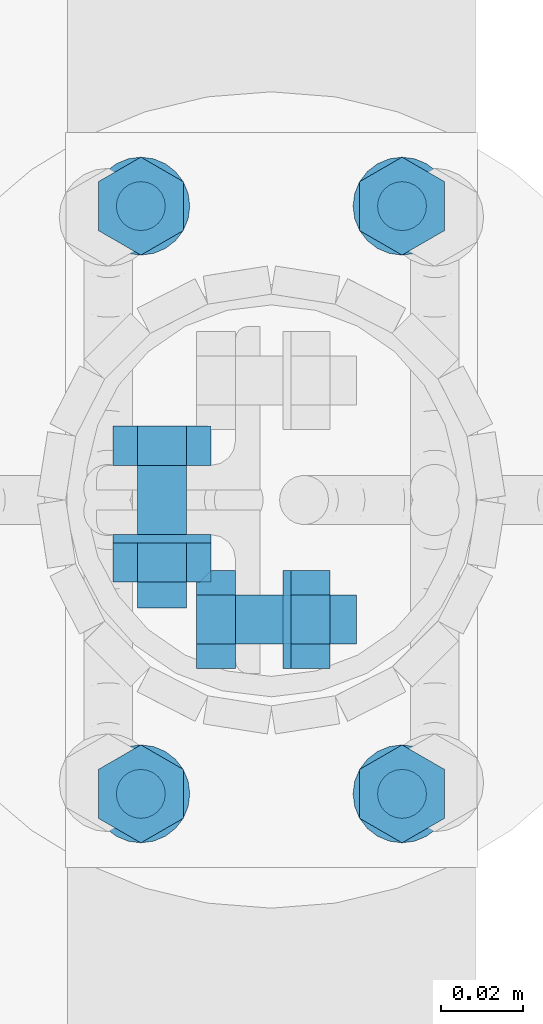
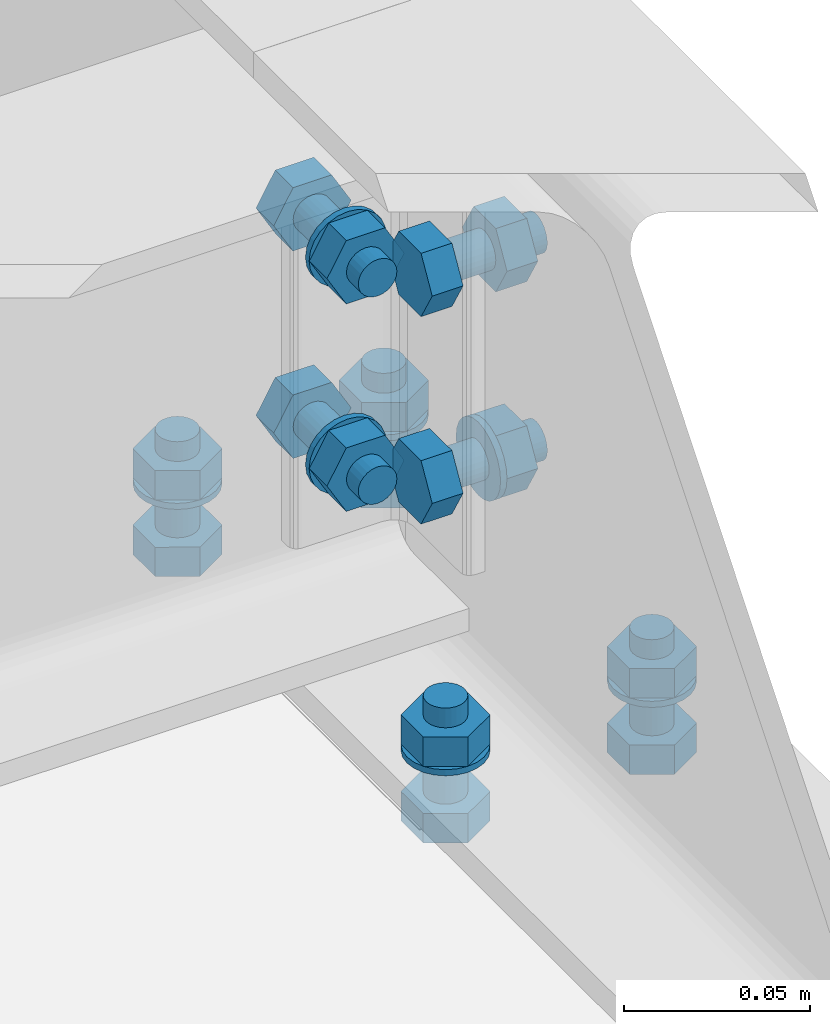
# One storey, part 30 of 84: 39 mechanical fasteners.
"""IFC4 building model written with IfcOpenShell, lengths in metres."""

from ifc_helpers import new_model, si_unit, frame, origin_with_axes, place, context, project, spatial, polyline, outline, extrude, type_object, element, save


model = new_model("IFC4")

# Units and contexts
model_context = context("Model", 3, precision=1e-05, world=origin_with_axes())
ifc_project = project(units=[si_unit("LENGTHUNIT", "METRE"), si_unit("AREAUNIT", "SQUARE_METRE"), si_unit("VOLUMEUNIT", "CUBIC_METRE"), si_unit("MASSUNIT", "GRAM", prefix="KILO"), si_unit("TIMEUNIT", "SECOND"), si_unit("PLANEANGLEUNIT", "RADIAN"), si_unit("SOLIDANGLEUNIT", "STERADIAN"), si_unit("THERMODYNAMICTEMPERATUREUNIT", "DEGREE_CELSIUS")], contexts=[model_context])

# Site, building, storey
placement_1 = place(None, origin_with_axes())
site = spatial("IfcSite", under=ifc_project, at=placement_1, Name="Italia", CompositionType="ELEMENT")
building = spatial("IfcBuilding", under=site, at=placement_1, Name="Tettoia", CompositionType="ELEMENT")
storey_placement = place(None, frame((0.0, 0.0, 4.199999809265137), z_axis=(0.0, 0.0, 1.0), x_axis=(1.0, 0.0, 0.0)))
storey = spatial("IfcBuildingStorey", under=building, at=storey_placement, Name="Storey 1", CompositionType="ELEMENT", Elevation=4.199999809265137)

# Mechanical fasteners
mechanical_fastener_type_1 = type_object("IfcMechanicalFastenerType", Name="Collegamento 0104_-004", PredefinedType="BOLT")
placement_2 = place(placement_1, origin_with_axes())
mechanical_fastener_1_placement = place(placement_2, origin_with_axes())
element("IfcMechanicalFastener", 1, at=mechanical_fastener_1_placement, inside=storey, type_object=mechanical_fastener_type_1, Name="Collegamento 0104_-004", NominalDiameter=0.0119999, context=model_context, shape_type="SweptSolid", body=[
    extrude(outline(polyline([(0.0, 0.0), (0.0120001, 0.0), (0.0180001, -0.0103931), (0.0120001, -0.0207853), (0.0, -0.0207853), (-0.00600004, -0.0103931), (0.0, 0.0)])), frame((11.3324, 4.716, 4.195), z_axis=(0.0, 0.0, -1.0), x_axis=(0.0, 1.0, 0.0)), (0.0, 0.0, 1.0), 0.00959969),
])
mechanical_fastener_type_2 = type_object("IfcMechanicalFastenerType", Name="Collegamento 0104_-004", PredefinedType="BOLT")
mechanical_fastener_2_placement = place(placement_2, origin_with_axes())
element("IfcMechanicalFastener", 2, at=mechanical_fastener_2_placement, inside=storey, type_object=mechanical_fastener_type_2, Name="Collegamento 0104_-004", NominalDiameter=0.012, context=model_context, shape_type="SweptSolid", body=[
    extrude(outline(polyline([(0.0, 0.0), (-0.000204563, -0.00155258), (-0.000803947, -0.00300026), (-0.00175762, -0.0042429), (-0.00300026, -0.00519657), (-0.00444698, -0.00579548), (-0.00600004, -0.00599957), (-0.0075531, -0.00579548), (-0.00899982, -0.00519657), (-0.0102425, -0.0042429), (-0.0111961, -0.00300026), (-0.0117955, -0.00155258), (-0.0120001, 0.0), (-0.0117955, 0.00155258), (-0.0111961, 0.00300026), (-0.0102425, 0.0042429), (-0.00899982, 0.00519657), (-0.0075531, 0.00579548), (-0.00600004, 0.00599957), (-0.00444698, 0.00579548), (-0.00300026, 0.00519657), (-0.00175762, 0.0042429), (-0.000803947, 0.00300026), (-0.000204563, 0.00155258), (0.0, 0.0)])), frame((11.322, 4.728, 4.2265), z_axis=(0.0, 0.0, -1.0), x_axis=(0.0, 1.0, 0.0)), (0.0, 0.0, 1.0), 0.0315003),
])
mechanical_fastener_type_3 = type_object("IfcMechanicalFastenerType", Name="Collegamento 0104_-004", PredefinedType="BOLT")
mechanical_fastener_3_placement = place(placement_2, origin_with_axes())
element("IfcMechanicalFastener", 3, at=mechanical_fastener_3_placement, inside=storey, type_object=mechanical_fastener_type_3, Name="Collegamento 0104_-004", NominalDiameter=0.0119999, context=model_context, shape_type="SweptSolid", body=[
    extrude(outline(polyline([(0.0, 0.0), (0.0120001, 0.0), (0.0180001, -0.0103931), (0.0120001, -0.0207853), (0.0, -0.0207853), (-0.00600004, -0.0103931), (0.0, 0.0)])), frame((11.3324, 4.716, 4.2201), z_axis=(0.0, 0.0, -1.0), x_axis=(0.0, 1.0, 0.0)), (0.0, 0.0, 1.0), 0.00960016),
])
mechanical_fastener_type_4 = type_object("IfcMechanicalFastenerType", Name="Collegamento 0104_-004", PredefinedType="BOLT")
mechanical_fastener_4_placement = place(placement_2, origin_with_axes())
element("IfcMechanicalFastener", 4, at=mechanical_fastener_4_placement, inside=storey, type_object=mechanical_fastener_type_4, Name="Collegamento 0104_-004", NominalDiameter=0.024, context=model_context, shape_type="SweptSolid", body=[
    extrude(outline(polyline([(0.0, 0.0), (-0.000409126, -0.00310612), (-0.00160789, -0.00599957), (-0.00351477, -0.00848484), (-0.00600004, -0.0103922), (-0.00889444, -0.011591), (-0.0120001, -0.0120001), (-0.0151057, -0.011591), (-0.0180001, -0.0103922), (-0.0204854, -0.00848484), (-0.0223923, -0.00599957), (-0.023591, -0.00310612), (-0.0240002, 0.0), (-0.023591, 0.00310612), (-0.0223923, 0.00599957), (-0.0204854, 0.00848484), (-0.0180001, 0.0103922), (-0.0151057, 0.011591), (-0.0120001, 0.0120001), (-0.00889444, 0.011591), (-0.00600004, 0.0103922), (-0.00351477, 0.00848484), (-0.00160789, 0.00599957), (-0.000409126, 0.00310612), (0.0, 0.0)])), frame((11.322, 4.734, 4.2105), z_axis=(0.0, 0.0, -1.0), x_axis=(0.0, 1.0, 0.0)), (0.0, 0.0, 1.0), 0.00199986),
])
mechanical_fastener_type_5 = type_object("IfcMechanicalFastenerType", Name="Collegamento 0104_-004", PredefinedType="BOLT")
mechanical_fastener_5_placement = place(placement_2, origin_with_axes())
element("IfcMechanicalFastener", 5, at=mechanical_fastener_5_placement, inside=storey, type_object=mechanical_fastener_type_5, Name="Collegamento 0104_-004", NominalDiameter=0.0119999, context=model_context, shape_type="SweptSolid", body=[
    extrude(outline(polyline([(0.0, 0.0), (0.0120001, 0.0), (0.0180001, -0.0103931), (0.0120001, -0.0207853), (0.0, -0.0207853), (-0.00600004, -0.0103931), (0.0, 0.0)])), frame((11.3324, 4.572, 4.195), z_axis=(0.0, 0.0, -1.0), x_axis=(0.0, 1.0, 0.0)), (0.0, 0.0, 1.0), 0.00959969),
])
mechanical_fastener_type_6 = type_object("IfcMechanicalFastenerType", Name="Collegamento 0104_-004", PredefinedType="BOLT")
mechanical_fastener_6_placement = place(placement_2, origin_with_axes())
element("IfcMechanicalFastener", 6, at=mechanical_fastener_6_placement, inside=storey, type_object=mechanical_fastener_type_6, Name="Collegamento 0104_-004", NominalDiameter=0.012, context=model_context, shape_type="SweptSolid", body=[
    extrude(outline(polyline([(0.0, 0.0), (-0.000204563, -0.00155258), (-0.000803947, -0.00300026), (-0.00175762, -0.0042429), (-0.00300026, -0.00519657), (-0.00444698, -0.00579548), (-0.00600004, -0.00599957), (-0.0075531, -0.00579548), (-0.00899982, -0.00519657), (-0.0102425, -0.0042429), (-0.0111961, -0.00300026), (-0.0117955, -0.00155258), (-0.0120001, 0.0), (-0.0117955, 0.00155258), (-0.0111961, 0.00300026), (-0.0102425, 0.0042429), (-0.00899982, 0.00519657), (-0.0075531, 0.00579548), (-0.00600004, 0.00599957), (-0.00444698, 0.00579548), (-0.00300026, 0.00519657), (-0.00175762, 0.0042429), (-0.000803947, 0.00300026), (-0.000204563, 0.00155258), (0.0, 0.0)])), frame((11.322, 4.584, 4.2265), z_axis=(0.0, 0.0, -1.0), x_axis=(0.0, 1.0, 0.0)), (0.0, 0.0, 1.0), 0.0315003),
])
mechanical_fastener_type_7 = type_object("IfcMechanicalFastenerType", Name="Collegamento 0104_-004", PredefinedType="BOLT")
mechanical_fastener_7_placement = place(placement_2, origin_with_axes())
element("IfcMechanicalFastener", 7, at=mechanical_fastener_7_placement, inside=storey, type_object=mechanical_fastener_type_7, Name="Collegamento 0104_-004", NominalDiameter=0.0119999, context=model_context, shape_type="SweptSolid", body=[
    extrude(outline(polyline([(0.0, 0.0), (0.0120001, 0.0), (0.0180001, -0.0103931), (0.0120001, -0.0207853), (0.0, -0.0207853), (-0.00600004, -0.0103931), (0.0, 0.0)])), frame((11.3324, 4.572, 4.2201), z_axis=(0.0, 0.0, -1.0), x_axis=(0.0, 1.0, 0.0)), (0.0, 0.0, 1.0), 0.00960016),
])
mechanical_fastener_type_8 = type_object("IfcMechanicalFastenerType", Name="Collegamento 0104_-004", PredefinedType="BOLT")
mechanical_fastener_8_placement = place(placement_2, origin_with_axes())
element("IfcMechanicalFastener", 8, at=mechanical_fastener_8_placement, inside=storey, type_object=mechanical_fastener_type_8, Name="Collegamento 0104_-004", NominalDiameter=0.024, context=model_context, shape_type="SweptSolid", body=[
    extrude(outline(polyline([(0.0, 0.0), (-0.000409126, -0.00310612), (-0.00160789, -0.00599957), (-0.00351477, -0.00848484), (-0.00600004, -0.0103922), (-0.00889444, -0.011591), (-0.0120001, -0.0120001), (-0.0151057, -0.011591), (-0.0180001, -0.0103922), (-0.0204854, -0.00848484), (-0.0223923, -0.00599957), (-0.023591, -0.00310612), (-0.0240002, 0.0), (-0.023591, 0.00310612), (-0.0223923, 0.00599957), (-0.0204854, 0.00848484), (-0.0180001, 0.0103922), (-0.0151057, 0.011591), (-0.0120001, 0.0120001), (-0.00889444, 0.011591), (-0.00600004, 0.0103922), (-0.00351477, 0.00848484), (-0.00160789, 0.00599957), (-0.000409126, 0.00310612), (0.0, 0.0)])), frame((11.322, 4.59, 4.2105), z_axis=(0.0, 0.0, -1.0), x_axis=(0.0, 1.0, 0.0)), (0.0, 0.0, 1.0), 0.00199986),
])
mechanical_fastener_type_9 = type_object("IfcMechanicalFastenerType", Name="Collegamento 0104_-004", PredefinedType="BOLT")
mechanical_fastener_9_placement = place(placement_2, origin_with_axes())
element("IfcMechanicalFastener", 9, at=mechanical_fastener_9_placement, inside=storey, type_object=mechanical_fastener_type_9, Name="Collegamento 0104_-004", NominalDiameter=0.0119999, context=model_context, shape_type="SweptSolid", body=[
    extrude(outline(polyline([(0.0, 0.0), (0.0120001, 0.0), (0.0180001, -0.0103922), (0.0120001, -0.0207853), (0.0, -0.0207853), (-0.00600004, -0.0103922), (0.0, 0.0)])), frame((11.2684, 4.716, 4.195), z_axis=(0.0, 0.0, -1.0), x_axis=(0.0, 1.0, 0.0)), (0.0, 0.0, 1.0), 0.00959969),
])
mechanical_fastener_type_10 = type_object("IfcMechanicalFastenerType", Name="Collegamento 0104_-004", PredefinedType="BOLT")
mechanical_fastener_10_placement = place(placement_2, origin_with_axes())
element("IfcMechanicalFastener", 10, at=mechanical_fastener_10_placement, inside=storey, type_object=mechanical_fastener_type_10, Name="Collegamento 0104_-004", NominalDiameter=0.012, context=model_context, shape_type="SweptSolid", body=[
    extrude(outline(polyline([(0.0, 0.0), (-0.000204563, -0.00155258), (-0.000803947, -0.00300026), (-0.00175762, -0.0042429), (-0.00300026, -0.00519657), (-0.00444698, -0.00579548), (-0.00600004, -0.00599957), (-0.0075531, -0.00579548), (-0.00899982, -0.00519657), (-0.0102425, -0.0042429), (-0.0111961, -0.00300026), (-0.0117955, -0.00155258), (-0.0120001, 0.0), (-0.0117955, 0.00155258), (-0.0111961, 0.00300026), (-0.0102425, 0.0042429), (-0.00899982, 0.00519657), (-0.0075531, 0.00579548), (-0.00600004, 0.00599957), (-0.00444698, 0.00579548), (-0.00300026, 0.00519657), (-0.00175762, 0.0042429), (-0.000803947, 0.00300026), (-0.000204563, 0.00155258), (0.0, 0.0)])), frame((11.258, 4.728, 4.2265), z_axis=(0.0, 0.0, -1.0), x_axis=(0.0, 1.0, 0.0)), (0.0, 0.0, 1.0), 0.0315003),
])
mechanical_fastener_type_11 = type_object("IfcMechanicalFastenerType", Name="Collegamento 0104_-004", PredefinedType="BOLT")
mechanical_fastener_11_placement = place(placement_2, origin_with_axes())
element("IfcMechanicalFastener", 11, at=mechanical_fastener_11_placement, inside=storey, type_object=mechanical_fastener_type_11, Name="Collegamento 0104_-004", NominalDiameter=0.0119999, context=model_context, shape_type="SweptSolid", body=[
    extrude(outline(polyline([(0.0, 0.0), (0.0120001, 0.0), (0.0180001, -0.0103922), (0.0120001, -0.0207853), (0.0, -0.0207853), (-0.00600004, -0.0103922), (0.0, 0.0)])), frame((11.2684, 4.716, 4.2201), z_axis=(0.0, 0.0, -1.0), x_axis=(0.0, 1.0, 0.0)), (0.0, 0.0, 1.0), 0.00960016),
])
mechanical_fastener_type_12 = type_object("IfcMechanicalFastenerType", Name="Collegamento 0104_-004", PredefinedType="BOLT")
mechanical_fastener_12_placement = place(placement_2, origin_with_axes())
element("IfcMechanicalFastener", 12, at=mechanical_fastener_12_placement, inside=storey, type_object=mechanical_fastener_type_12, Name="Collegamento 0104_-004", NominalDiameter=0.024, context=model_context, shape_type="SweptSolid", body=[
    extrude(outline(polyline([(0.0, 0.0), (-0.000409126, -0.00310612), (-0.00160789, -0.00599957), (-0.00351477, -0.00848484), (-0.00600004, -0.0103922), (-0.00889444, -0.011591), (-0.0120001, -0.0120001), (-0.0151057, -0.011591), (-0.0180001, -0.0103922), (-0.0204854, -0.00848484), (-0.0223923, -0.00599957), (-0.023591, -0.00310612), (-0.0240002, 0.0), (-0.023591, 0.00310612), (-0.0223923, 0.00599957), (-0.0204854, 0.00848484), (-0.0180001, 0.0103922), (-0.0151057, 0.011591), (-0.0120001, 0.0120001), (-0.00889444, 0.011591), (-0.00600004, 0.0103922), (-0.00351477, 0.00848484), (-0.00160789, 0.00599957), (-0.000409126, 0.00310612), (0.0, 0.0)])), frame((11.258, 4.734, 4.2105), z_axis=(0.0, 0.0, -1.0), x_axis=(0.0, 1.0, 0.0)), (0.0, 0.0, 1.0), 0.00199986),
])
mechanical_fastener_type_13 = type_object("IfcMechanicalFastenerType", Name="Collegamento 0104_-004", PredefinedType="BOLT")
mechanical_fastener_13_placement = place(placement_2, origin_with_axes())
element("IfcMechanicalFastener", 13, at=mechanical_fastener_13_placement, inside=storey, type_object=mechanical_fastener_type_13, Name="Collegamento 0104_-004", NominalDiameter=0.0119999, context=model_context, shape_type="SweptSolid", body=[
    extrude(outline(polyline([(0.0, 0.0), (0.0120001, 0.0), (0.0180001, -0.0103922), (0.0120001, -0.0207853), (0.0, -0.0207853), (-0.00600004, -0.0103922), (0.0, 0.0)])), frame((11.2684, 4.572, 4.195), z_axis=(0.0, 0.0, -1.0), x_axis=(0.0, 1.0, 0.0)), (0.0, 0.0, 1.0), 0.00959969),
])
mechanical_fastener_type_14 = type_object("IfcMechanicalFastenerType", Name="Collegamento 0104_-004", PredefinedType="BOLT")
mechanical_fastener_14_placement = place(placement_2, origin_with_axes())
element("IfcMechanicalFastener", 14, at=mechanical_fastener_14_placement, inside=storey, type_object=mechanical_fastener_type_14, Name="Collegamento 0104_-004", NominalDiameter=0.012, context=model_context, shape_type="SweptSolid", body=[
    extrude(outline(polyline([(0.0, 0.0), (-0.000204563, -0.00155258), (-0.000803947, -0.00300026), (-0.00175762, -0.0042429), (-0.00300026, -0.00519657), (-0.00444698, -0.00579548), (-0.00600004, -0.00599957), (-0.0075531, -0.00579548), (-0.00899982, -0.00519657), (-0.0102425, -0.0042429), (-0.0111961, -0.00300026), (-0.0117955, -0.00155258), (-0.0120001, 0.0), (-0.0117955, 0.00155258), (-0.0111961, 0.00300026), (-0.0102425, 0.0042429), (-0.00899982, 0.00519657), (-0.0075531, 0.00579548), (-0.00600004, 0.00599957), (-0.00444698, 0.00579548), (-0.00300026, 0.00519657), (-0.00175762, 0.0042429), (-0.000803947, 0.00300026), (-0.000204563, 0.00155258), (0.0, 0.0)])), frame((11.258, 4.584, 4.2265), z_axis=(0.0, 0.0, -1.0), x_axis=(0.0, 1.0, 0.0)), (0.0, 0.0, 1.0), 0.0315003),
])
mechanical_fastener_type_15 = type_object("IfcMechanicalFastenerType", Name="Collegamento 0104_-004", PredefinedType="BOLT")
mechanical_fastener_15_placement = place(placement_2, origin_with_axes())
element("IfcMechanicalFastener", 15, at=mechanical_fastener_15_placement, inside=storey, type_object=mechanical_fastener_type_15, Name="Collegamento 0104_-004", NominalDiameter=0.0119999, context=model_context, shape_type="SweptSolid", body=[
    extrude(outline(polyline([(0.0, 0.0), (0.0120001, 0.0), (0.0180001, -0.0103922), (0.0120001, -0.0207853), (0.0, -0.0207853), (-0.00600004, -0.0103922), (0.0, 0.0)])), frame((11.2684, 4.572, 4.2201), z_axis=(0.0, 0.0, -1.0), x_axis=(0.0, 1.0, 0.0)), (0.0, 0.0, 1.0), 0.00960016),
])
mechanical_fastener_type_16 = type_object("IfcMechanicalFastenerType", Name="Collegamento 0104_-004", PredefinedType="BOLT")
mechanical_fastener_16_placement = place(placement_2, origin_with_axes())
element("IfcMechanicalFastener", 16, at=mechanical_fastener_16_placement, inside=storey, type_object=mechanical_fastener_type_16, Name="Collegamento 0104_-004", NominalDiameter=0.024, context=model_context, shape_type="SweptSolid", body=[
    extrude(outline(polyline([(0.0, 0.0), (-0.000409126, -0.00310612), (-0.00160789, -0.00599957), (-0.00351477, -0.00848484), (-0.00600004, -0.0103922), (-0.00889444, -0.011591), (-0.0120001, -0.0120001), (-0.0151057, -0.011591), (-0.0180001, -0.0103922), (-0.0204854, -0.00848484), (-0.0223923, -0.00599957), (-0.023591, -0.00310612), (-0.0240002, 0.0), (-0.023591, 0.00310612), (-0.0223923, 0.00599957), (-0.0204854, 0.00848484), (-0.0180001, 0.0103922), (-0.0151057, 0.011591), (-0.0120001, 0.0120001), (-0.00889444, 0.011591), (-0.00600004, 0.0103922), (-0.00351477, 0.00848484), (-0.00160789, 0.00599957), (-0.000409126, 0.00310612), (0.0, 0.0)])), frame((11.258, 4.59, 4.2105), z_axis=(0.0, 0.0, -1.0), x_axis=(0.0, 1.0, 0.0)), (0.0, 0.0, 1.0), 0.00199986),
])
mechanical_fastener_type_17 = type_object("IfcMechanicalFastenerType", Name="Collegamento 0104_0103", PredefinedType="BOLT")
mechanical_fastener_17_placement = place(placement_2, origin_with_axes())
element("IfcMechanicalFastener", 17, at=mechanical_fastener_17_placement, inside=storey, type_object=mechanical_fastener_type_17, Name="Collegamento 0104_0103", NominalDiameter=0.0119997, context=model_context, shape_type="SweptSolid", body=[
    extrude(outline(polyline([(0.0, 0.0), (-0.0120001, 0.0), (-0.0179996, 0.0103922), (-0.0120001, 0.0207844), (0.0, 0.0207844), (0.00600052, 0.0103922), (0.0, 0.0)])), frame((11.2572, 4.6585, 4.25561), z_axis=(0.0, 1.0, 0.0), x_axis=(-1.0, 0.0, 0.0)), (0.0, 0.0, 1.0), 0.00959969),
])
mechanical_fastener_type_18 = type_object("IfcMechanicalFastenerType", Name="Collegamento 0104_0103", PredefinedType="BOLT")
mechanical_fastener_18_placement = place(placement_2, origin_with_axes())
element("IfcMechanicalFastener", 18, at=mechanical_fastener_18_placement, inside=storey, type_object=mechanical_fastener_type_18, Name="Collegamento 0104_0103", NominalDiameter=0.012, context=model_context, shape_type="SweptSolid", body=[
    extrude(outline(polyline([(0.0, 0.0), (-0.000204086, -0.00155306), (-0.000802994, -0.00299978), (-0.00175667, -0.00424242), (-0.00299931, -0.00519609), (-0.00444698, -0.00579548), (-0.00599957, -0.00600004), (-0.00755215, -0.00579548), (-0.00899982, -0.00519609), (-0.0102425, -0.00424242), (-0.0111961, -0.00299978), (-0.011795, -0.00155306), (-0.0119991, 0.0), (-0.011795, 0.00155306), (-0.0111961, 0.00299978), (-0.0102425, 0.00424242), (-0.00899982, 0.00519609), (-0.00755215, 0.00579548), (-0.00599957, 0.00600004), (-0.00444698, 0.00579548), (-0.00299931, 0.00519609), (-0.00175667, 0.00424242), (-0.000802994, 0.00299978), (-0.000204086, 0.00155306), (0.0, 0.0)])), frame((11.2572, 4.6235, 4.266), z_axis=(0.0, 1.0, 0.0), x_axis=(-1.0, 0.0, 0.0)), (0.0, 0.0, 1.0), 0.0350003),
])
mechanical_fastener_type_19 = type_object("IfcMechanicalFastenerType", Name="Collegamento 0104_0103", PredefinedType="BOLT")
mechanical_fastener_19_placement = place(placement_2, origin_with_axes())
element("IfcMechanicalFastener", 19, at=mechanical_fastener_19_placement, inside=storey, type_object=mechanical_fastener_type_19, Name="Collegamento 0104_0103", NominalDiameter=0.0119997, context=model_context, shape_type="SweptSolid", body=[
    extrude(outline(polyline([(0.0, 0.0), (-0.0120001, 0.0), (-0.0179996, 0.0103922), (-0.0120001, 0.0207844), (0.0, 0.0207844), (0.00600052, 0.0103922), (0.0, 0.0)])), frame((11.2572, 4.6299, 4.25561), z_axis=(0.0, 1.0, 0.0), x_axis=(-1.0, 0.0, 0.0)), (0.0, 0.0, 1.0), 0.00960016),
])
mechanical_fastener_type_20 = type_object("IfcMechanicalFastenerType", Name="Collegamento 0104_0103", PredefinedType="BOLT")
mechanical_fastener_20_placement = place(placement_2, origin_with_axes())
element("IfcMechanicalFastener", 20, at=mechanical_fastener_20_placement, inside=storey, type_object=mechanical_fastener_type_20, Name="Collegamento 0104_0103", NominalDiameter=0.024, context=model_context, shape_type="SweptSolid", body=[
    extrude(outline(polyline([(0.0, 0.0), (-0.000409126, -0.00310564), (-0.00160789, -0.00600004), (-0.00351524, -0.00848532), (-0.00600052, -0.0103922), (-0.00889397, -0.011591), (-0.0120001, -0.0120001), (-0.0151062, -0.011591), (-0.0179996, -0.0103922), (-0.0204849, -0.00848532), (-0.0223923, -0.00600004), (-0.023591, -0.00310564), (-0.0240002, 0.0), (-0.023591, 0.00310564), (-0.0223923, 0.00600004), (-0.0204849, 0.00848532), (-0.0179996, 0.0103922), (-0.0151062, 0.011591), (-0.0120001, 0.0120001), (-0.00889397, 0.011591), (-0.00600052, 0.0103922), (-0.00351524, 0.00848532), (-0.00160789, 0.00600004), (-0.000409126, 0.00310564), (0.0, 0.0)])), frame((11.2512, 4.6395, 4.266), z_axis=(0.0, 1.0, 0.0), x_axis=(-1.0, 0.0, 0.0)), (0.0, 0.0, 1.0), 0.00199986),
])
mechanical_fastener_type_21 = type_object("IfcMechanicalFastenerType", Name="Collegamento 0104_0103", PredefinedType="BOLT")
mechanical_fastener_21_placement = place(placement_2, origin_with_axes())
element("IfcMechanicalFastener", 21, at=mechanical_fastener_21_placement, inside=storey, type_object=mechanical_fastener_type_21, Name="Collegamento 0104_0103", NominalDiameter=0.0119997, context=model_context, shape_type="SweptSolid", body=[
    extrude(outline(polyline([(0.0, 0.0), (-0.0120001, 0.0), (-0.0179996, 0.0103922), (-0.0120001, 0.0207844), (0.0, 0.0207844), (0.00600052, 0.0103922), (0.0, 0.0)])), frame((11.2572, 4.6585, 4.32361), z_axis=(0.0, 1.0, 0.0), x_axis=(-1.0, 0.0, 0.0)), (0.0, 0.0, 1.0), 0.00959969),
])
mechanical_fastener_type_22 = type_object("IfcMechanicalFastenerType", Name="Collegamento 0104_0103", PredefinedType="BOLT")
mechanical_fastener_22_placement = place(placement_2, origin_with_axes())
element("IfcMechanicalFastener", 22, at=mechanical_fastener_22_placement, inside=storey, type_object=mechanical_fastener_type_22, Name="Collegamento 0104_0103", NominalDiameter=0.012, context=model_context, shape_type="SweptSolid", body=[
    extrude(outline(polyline([(0.0, 0.0), (-0.000204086, -0.00155306), (-0.000802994, -0.00299978), (-0.00175667, -0.00424242), (-0.00299931, -0.00519609), (-0.00444698, -0.00579548), (-0.00599957, -0.00600004), (-0.00755215, -0.00579548), (-0.00899982, -0.00519609), (-0.0102425, -0.00424242), (-0.0111961, -0.00299978), (-0.011795, -0.00155306), (-0.0119991, 0.0), (-0.011795, 0.00155306), (-0.0111961, 0.00299978), (-0.0102425, 0.00424242), (-0.00899982, 0.00519609), (-0.00755215, 0.00579548), (-0.00599957, 0.00600004), (-0.00444698, 0.00579548), (-0.00299931, 0.00519609), (-0.00175667, 0.00424242), (-0.000802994, 0.00299978), (-0.000204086, 0.00155306), (0.0, 0.0)])), frame((11.2572, 4.6235, 4.334), z_axis=(0.0, 1.0, 0.0), x_axis=(-1.0, 0.0, 0.0)), (0.0, 0.0, 1.0), 0.0350003),
])
mechanical_fastener_type_23 = type_object("IfcMechanicalFastenerType", Name="Collegamento 0104_0103", PredefinedType="BOLT")
mechanical_fastener_23_placement = place(placement_2, origin_with_axes())
element("IfcMechanicalFastener", 23, at=mechanical_fastener_23_placement, inside=storey, type_object=mechanical_fastener_type_23, Name="Collegamento 0104_0103", NominalDiameter=0.0119997, context=model_context, shape_type="SweptSolid", body=[
    extrude(outline(polyline([(0.0, 0.0), (-0.0120001, 0.0), (-0.0179996, 0.0103922), (-0.0120001, 0.0207844), (0.0, 0.0207844), (0.00600052, 0.0103922), (0.0, 0.0)])), frame((11.2572, 4.6299, 4.32361), z_axis=(0.0, 1.0, 0.0), x_axis=(-1.0, 0.0, 0.0)), (0.0, 0.0, 1.0), 0.00960016),
])
mechanical_fastener_type_24 = type_object("IfcMechanicalFastenerType", Name="Collegamento 0104_0103", PredefinedType="BOLT")
mechanical_fastener_24_placement = place(placement_2, origin_with_axes())
element("IfcMechanicalFastener", 24, at=mechanical_fastener_24_placement, inside=storey, type_object=mechanical_fastener_type_24, Name="Collegamento 0104_0103", NominalDiameter=0.024, context=model_context, shape_type="SweptSolid", body=[
    extrude(outline(polyline([(0.0, 0.0), (-0.000409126, -0.00310564), (-0.00160789, -0.00600004), (-0.00351524, -0.00848532), (-0.00600052, -0.0103922), (-0.00889397, -0.011591), (-0.0120001, -0.0120001), (-0.0151062, -0.011591), (-0.0179996, -0.0103922), (-0.0204849, -0.00848532), (-0.0223923, -0.00600004), (-0.023591, -0.00310564), (-0.0240002, 0.0), (-0.023591, 0.00310564), (-0.0223923, 0.00600004), (-0.0204849, 0.00848532), (-0.0179996, 0.0103922), (-0.0151062, 0.011591), (-0.0120001, 0.0120001), (-0.00889397, 0.011591), (-0.00600052, 0.0103922), (-0.00351524, 0.00848532), (-0.00160789, 0.00600004), (-0.000409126, 0.00310564), (0.0, 0.0)])), frame((11.2512, 4.6395, 4.334), z_axis=(0.0, 1.0, 0.0), x_axis=(-1.0, 0.0, 0.0)), (0.0, 0.0, 1.0), 0.00199986),
])
mechanical_fastener_type_25 = type_object("IfcMechanicalFastenerType", Name="Collegamento 0104_0103", PredefinedType="BOLT")
mechanical_fastener_25_placement = place(placement_2, origin_with_axes())
element("IfcMechanicalFastener", 25, at=mechanical_fastener_25_placement, inside=storey, type_object=mechanical_fastener_type_25, Name="Collegamento 0104_0103", NominalDiameter=0.0119997, context=model_context, shape_type="SweptSolid", body=[
    extrude(outline(polyline([(0.0, 0.0), (-0.0120001, 0.0), (-0.0179996, 0.0103922), (-0.0120001, 0.0207844), (0.0, 0.0207844), (0.00600052, 0.0103922), (0.0, 0.0)])), frame((11.2572, 4.6585, 4.25561), z_axis=(0.0, 1.0, 0.0), x_axis=(-1.0, 0.0, 0.0)), (0.0, 0.0, 1.0), 0.00959969),
])
mechanical_fastener_type_26 = type_object("IfcMechanicalFastenerType", Name="Collegamento 0104_0103", PredefinedType="BOLT")
mechanical_fastener_26_placement = place(placement_2, origin_with_axes())
element("IfcMechanicalFastener", 26, at=mechanical_fastener_26_placement, inside=storey, type_object=mechanical_fastener_type_26, Name="Collegamento 0104_0103", NominalDiameter=0.012, context=model_context, shape_type="SweptSolid", body=[
    extrude(outline(polyline([(0.0, 0.0), (-0.000204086, -0.00155306), (-0.000802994, -0.00299978), (-0.00175667, -0.00424242), (-0.00299931, -0.00519609), (-0.00444698, -0.00579548), (-0.00599957, -0.00600004), (-0.00755215, -0.00579548), (-0.00899982, -0.00519609), (-0.0102425, -0.00424242), (-0.0111961, -0.00299978), (-0.011795, -0.00155306), (-0.0119991, 0.0), (-0.011795, 0.00155306), (-0.0111961, 0.00299978), (-0.0102425, 0.00424242), (-0.00899982, 0.00519609), (-0.00755215, 0.00579548), (-0.00599957, 0.00600004), (-0.00444698, 0.00579548), (-0.00299931, 0.00519609), (-0.00175667, 0.00424242), (-0.000802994, 0.00299978), (-0.000204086, 0.00155306), (0.0, 0.0)])), frame((11.2572, 4.6235, 4.266), z_axis=(0.0, 1.0, 0.0), x_axis=(-1.0, 0.0, 0.0)), (0.0, 0.0, 1.0), 0.0350003),
])
mechanical_fastener_type_27 = type_object("IfcMechanicalFastenerType", Name="Collegamento 0104_0103", PredefinedType="BOLT")
mechanical_fastener_27_placement = place(placement_2, origin_with_axes())
element("IfcMechanicalFastener", 27, at=mechanical_fastener_27_placement, inside=storey, type_object=mechanical_fastener_type_27, Name="Collegamento 0104_0103", NominalDiameter=0.0119997, context=model_context, shape_type="SweptSolid", body=[
    extrude(outline(polyline([(0.0, 0.0), (-0.0120001, 0.0), (-0.0179996, 0.0103922), (-0.0120001, 0.0207844), (0.0, 0.0207844), (0.00600052, 0.0103922), (0.0, 0.0)])), frame((11.2572, 4.6299, 4.25561), z_axis=(0.0, 1.0, 0.0), x_axis=(-1.0, 0.0, 0.0)), (0.0, 0.0, 1.0), 0.00960016),
])
mechanical_fastener_type_28 = type_object("IfcMechanicalFastenerType", Name="Collegamento 0104_0103", PredefinedType="BOLT")
mechanical_fastener_28_placement = place(placement_2, origin_with_axes())
element("IfcMechanicalFastener", 28, at=mechanical_fastener_28_placement, inside=storey, type_object=mechanical_fastener_type_28, Name="Collegamento 0104_0103", NominalDiameter=0.024, context=model_context, shape_type="SweptSolid", body=[
    extrude(outline(polyline([(0.0, 0.0), (-0.000409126, -0.00310564), (-0.00160789, -0.00600004), (-0.00351524, -0.00848532), (-0.00600052, -0.0103922), (-0.00889397, -0.011591), (-0.0120001, -0.0120001), (-0.0151062, -0.011591), (-0.0179996, -0.0103922), (-0.0204849, -0.00848532), (-0.0223923, -0.00600004), (-0.023591, -0.00310564), (-0.0240002, 0.0), (-0.023591, 0.00310564), (-0.0223923, 0.00600004), (-0.0204849, 0.00848532), (-0.0179996, 0.0103922), (-0.0151062, 0.011591), (-0.0120001, 0.0120001), (-0.00889397, 0.011591), (-0.00600052, 0.0103922), (-0.00351524, 0.00848532), (-0.00160789, 0.00600004), (-0.000409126, 0.00310564), (0.0, 0.0)])), frame((11.2512, 4.6395, 4.266), z_axis=(0.0, 1.0, 0.0), x_axis=(-1.0, 0.0, 0.0)), (0.0, 0.0, 1.0), 0.00199986),
])
mechanical_fastener_type_29 = type_object("IfcMechanicalFastenerType", Name="Collegamento 0104_0103", PredefinedType="BOLT")
mechanical_fastener_29_placement = place(placement_2, origin_with_axes())
element("IfcMechanicalFastener", 29, at=mechanical_fastener_29_placement, inside=storey, type_object=mechanical_fastener_type_29, Name="Collegamento 0104_0103", NominalDiameter=0.0119997, context=model_context, shape_type="SweptSolid", body=[
    extrude(outline(polyline([(0.0, 0.0), (-0.0120001, 0.0), (-0.0179996, 0.0103922), (-0.0120001, 0.0207844), (0.0, 0.0207844), (0.00600052, 0.0103922), (0.0, 0.0)])), frame((11.2572, 4.6585, 4.32361), z_axis=(0.0, 1.0, 0.0), x_axis=(-1.0, 0.0, 0.0)), (0.0, 0.0, 1.0), 0.00959969),
])
mechanical_fastener_type_30 = type_object("IfcMechanicalFastenerType", Name="Collegamento 0104_0103", PredefinedType="BOLT")
mechanical_fastener_30_placement = place(placement_2, origin_with_axes())
element("IfcMechanicalFastener", 30, at=mechanical_fastener_30_placement, inside=storey, type_object=mechanical_fastener_type_30, Name="Collegamento 0104_0103", NominalDiameter=0.012, context=model_context, shape_type="SweptSolid", body=[
    extrude(outline(polyline([(0.0, 0.0), (-0.000204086, -0.00155306), (-0.000802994, -0.00299978), (-0.00175667, -0.00424242), (-0.00299931, -0.00519609), (-0.00444698, -0.00579548), (-0.00599957, -0.00600004), (-0.00755215, -0.00579548), (-0.00899982, -0.00519609), (-0.0102425, -0.00424242), (-0.0111961, -0.00299978), (-0.011795, -0.00155306), (-0.0119991, 0.0), (-0.011795, 0.00155306), (-0.0111961, 0.00299978), (-0.0102425, 0.00424242), (-0.00899982, 0.00519609), (-0.00755215, 0.00579548), (-0.00599957, 0.00600004), (-0.00444698, 0.00579548), (-0.00299931, 0.00519609), (-0.00175667, 0.00424242), (-0.000802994, 0.00299978), (-0.000204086, 0.00155306), (0.0, 0.0)])), frame((11.2572, 4.6235, 4.334), z_axis=(0.0, 1.0, 0.0), x_axis=(-1.0, 0.0, 0.0)), (0.0, 0.0, 1.0), 0.0350003),
])
mechanical_fastener_type_31 = type_object("IfcMechanicalFastenerType", Name="Collegamento 0104_0103", PredefinedType="BOLT")
mechanical_fastener_31_placement = place(placement_2, origin_with_axes())
element("IfcMechanicalFastener", 31, at=mechanical_fastener_31_placement, inside=storey, type_object=mechanical_fastener_type_31, Name="Collegamento 0104_0103", NominalDiameter=0.0119997, context=model_context, shape_type="SweptSolid", body=[
    extrude(outline(polyline([(0.0, 0.0), (-0.0120001, 0.0), (-0.0179996, 0.0103922), (-0.0120001, 0.0207844), (0.0, 0.0207844), (0.00600052, 0.0103922), (0.0, 0.0)])), frame((11.2572, 4.6299, 4.32361), z_axis=(0.0, 1.0, 0.0), x_axis=(-1.0, 0.0, 0.0)), (0.0, 0.0, 1.0), 0.00960016),
])
mechanical_fastener_type_32 = type_object("IfcMechanicalFastenerType", Name="Collegamento 0104_0103", PredefinedType="BOLT")
mechanical_fastener_32_placement = place(placement_2, origin_with_axes())
element("IfcMechanicalFastener", 32, at=mechanical_fastener_32_placement, inside=storey, type_object=mechanical_fastener_type_32, Name="Collegamento 0104_0103", NominalDiameter=0.024, context=model_context, shape_type="SweptSolid", body=[
    extrude(outline(polyline([(0.0, 0.0), (-0.000409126, -0.00310564), (-0.00160789, -0.00600004), (-0.00351524, -0.00848532), (-0.00600052, -0.0103922), (-0.00889397, -0.011591), (-0.0120001, -0.0120001), (-0.0151062, -0.011591), (-0.0179996, -0.0103922), (-0.0204849, -0.00848532), (-0.0223923, -0.00600004), (-0.023591, -0.00310564), (-0.0240002, 0.0), (-0.023591, 0.00310564), (-0.0223923, 0.00600004), (-0.0204849, 0.00848532), (-0.0179996, 0.0103922), (-0.0151062, 0.011591), (-0.0120001, 0.0120001), (-0.00889397, 0.011591), (-0.00600052, 0.0103922), (-0.00351524, 0.00848532), (-0.00160789, 0.00600004), (-0.000409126, 0.00310564), (0.0, 0.0)])), frame((11.2512, 4.6395, 4.334), z_axis=(0.0, 1.0, 0.0), x_axis=(-1.0, 0.0, 0.0)), (0.0, 0.0, 1.0), 0.00199986),
])
mechanical_fastener_type_33 = type_object("IfcMechanicalFastenerType", Name="Collegamento 0104_0103", PredefinedType="BOLT")
mechanical_fastener_33_placement = place(placement_2, origin_with_axes())
element("IfcMechanicalFastener", 33, at=mechanical_fastener_33_placement, inside=storey, type_object=mechanical_fastener_type_33, Name="Collegamento 0104_0103", NominalDiameter=0.0119996, context=model_context, shape_type="SweptSolid", body=[
    extrude(outline(polyline([(0.0, 0.0), (-0.0119996, 0.0), (-0.0179996, 0.0103922), (-0.0119996, 0.0207844), (0.0, 0.0207844), (0.00600004, 0.0103922), (0.0, 0.0)])), frame((11.2812, 4.6147, 4.25561), z_axis=(-1.0, 0.0, 0.0), x_axis=(0.0, -1.0, 0.0)), (0.0, 0.0, 1.0), 0.00960064),
])
mechanical_fastener_type_34 = type_object("IfcMechanicalFastenerType", Name="Collegamento 0104_0103", PredefinedType="BOLT")
mechanical_fastener_34_placement = place(placement_2, origin_with_axes())
element("IfcMechanicalFastener", 34, at=mechanical_fastener_34_placement, inside=storey, type_object=mechanical_fastener_type_34, Name="Collegamento 0104_0103", NominalDiameter=0.012, context=model_context, shape_type="SweptSolid", body=[
    extrude(outline(polyline([(0.0, 0.0), (-0.000204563, -0.00155306), (-0.000803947, -0.00299978), (-0.00175762, -0.00424242), (-0.00300026, -0.00519609), (-0.00444698, -0.00579548), (-0.00600004, -0.00600004), (-0.0075531, -0.00579548), (-0.00899982, -0.00519609), (-0.0102425, -0.00424242), (-0.0111961, -0.00299978), (-0.0117955, -0.00155306), (-0.0120001, 0.0), (-0.0117955, 0.00155306), (-0.0111961, 0.00299978), (-0.0102425, 0.00424242), (-0.00899982, 0.00519609), (-0.0075531, 0.00579548), (-0.00600004, 0.00600004), (-0.00444698, 0.00579548), (-0.00300026, 0.00519609), (-0.00175762, 0.00424242), (-0.000803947, 0.00299978), (-0.000204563, 0.00155306), (0.0, 0.0)])), frame((11.3108, 4.6147, 4.266), z_axis=(-1.0, 0.0, 0.0), x_axis=(0.0, -1.0, 0.0)), (0.0, 0.0, 1.0), 0.0295992),
])
mechanical_fastener_type_35 = type_object("IfcMechanicalFastenerType", Name="Collegamento 0104_0103", PredefinedType="BOLT")
mechanical_fastener_35_placement = place(placement_2, origin_with_axes())
element("IfcMechanicalFastener", 35, at=mechanical_fastener_35_placement, inside=storey, type_object=mechanical_fastener_type_35, Name="Collegamento 0104_0103", NominalDiameter=0.0119996, context=model_context, shape_type="SweptSolid", body=[
    extrude(outline(polyline([(0.0, 0.0), (-0.0119996, 0.0), (-0.0179996, 0.0103922), (-0.0119996, 0.0207844), (0.0, 0.0207844), (0.00600004, 0.0103922), (0.0, 0.0)])), frame((11.3044, 4.6147, 4.25561), z_axis=(-1.0, 0.0, 0.0), x_axis=(0.0, -1.0, 0.0)), (0.0, 0.0, 1.0), 0.00960064),
])
mechanical_fastener_type_36 = type_object("IfcMechanicalFastenerType", Name="Collegamento 0104_0103", PredefinedType="BOLT")
mechanical_fastener_36_placement = place(placement_2, origin_with_axes())
element("IfcMechanicalFastener", 36, at=mechanical_fastener_36_placement, inside=storey, type_object=mechanical_fastener_type_36, Name="Collegamento 0104_0103", NominalDiameter=0.024, context=model_context, shape_type="SweptSolid", body=[
    extrude(outline(polyline([(0.0, 0.0), (-0.000409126, -0.00310564), (-0.00160789, -0.00600004), (-0.00351477, -0.00848532), (-0.00600004, -0.0103922), (-0.00889444, -0.011591), (-0.0120001, -0.0120001), (-0.0151057, -0.011591), (-0.0180001, -0.0103922), (-0.0204854, -0.00848532), (-0.0223923, -0.00600004), (-0.023591, -0.00310564), (-0.0240002, 0.0), (-0.023591, 0.00310564), (-0.0223923, 0.00600004), (-0.0204854, 0.00848532), (-0.0180001, 0.0103922), (-0.0151057, 0.011591), (-0.0120001, 0.0120001), (-0.00889444, 0.011591), (-0.00600004, 0.0103922), (-0.00351477, 0.00848532), (-0.00160789, 0.00600004), (-0.000409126, 0.00310564), (0.0, 0.0)])), frame((11.2948, 4.6087, 4.266), z_axis=(-1.0, 0.0, 0.0), x_axis=(0.0, -1.0, 0.0)), (0.0, 0.0, 1.0), 0.00199986),
])
mechanical_fastener_type_37 = type_object("IfcMechanicalFastenerType", Name="Collegamento 0104_0103", PredefinedType="BOLT")
mechanical_fastener_37_placement = place(placement_2, origin_with_axes())
element("IfcMechanicalFastener", 37, at=mechanical_fastener_37_placement, inside=storey, type_object=mechanical_fastener_type_37, Name="Collegamento 0104_0103", NominalDiameter=0.0119996, context=model_context, shape_type="SweptSolid", body=[
    extrude(outline(polyline([(0.0, 0.0), (-0.0119996, 0.0), (-0.0179996, 0.0103922), (-0.0119996, 0.0207844), (0.0, 0.0207844), (0.00600004, 0.0103922), (0.0, 0.0)])), frame((11.2812, 4.6147, 4.32361), z_axis=(-1.0, 0.0, 0.0), x_axis=(0.0, -1.0, 0.0)), (0.0, 0.0, 1.0), 0.00960064),
])
mechanical_fastener_type_38 = type_object("IfcMechanicalFastenerType", Name="Collegamento 0104_0103", PredefinedType="BOLT")
mechanical_fastener_38_placement = place(placement_2, origin_with_axes())
element("IfcMechanicalFastener", 38, at=mechanical_fastener_38_placement, inside=storey, type_object=mechanical_fastener_type_38, Name="Collegamento 0104_0103", NominalDiameter=0.012, context=model_context, shape_type="SweptSolid", body=[
    extrude(outline(polyline([(0.0, 0.0), (-0.000204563, -0.00155306), (-0.000803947, -0.00299978), (-0.00175762, -0.00424242), (-0.00300026, -0.00519609), (-0.00444698, -0.00579548), (-0.00600004, -0.00600004), (-0.0075531, -0.00579548), (-0.00899982, -0.00519609), (-0.0102425, -0.00424242), (-0.0111961, -0.00299978), (-0.0117955, -0.00155306), (-0.0120001, 0.0), (-0.0117955, 0.00155306), (-0.0111961, 0.00299978), (-0.0102425, 0.00424242), (-0.00899982, 0.00519609), (-0.0075531, 0.00579548), (-0.00600004, 0.00600004), (-0.00444698, 0.00579548), (-0.00300026, 0.00519609), (-0.00175762, 0.00424242), (-0.000803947, 0.00299978), (-0.000204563, 0.00155306), (0.0, 0.0)])), frame((11.3108, 4.6147, 4.334), z_axis=(-1.0, 0.0, 0.0), x_axis=(0.0, -1.0, 0.0)), (0.0, 0.0, 1.0), 0.0295992),
])
mechanical_fastener_type_39 = type_object("IfcMechanicalFastenerType", Name="Collegamento 0104_0103", PredefinedType="BOLT")
mechanical_fastener_39_placement = place(placement_2, origin_with_axes())
element("IfcMechanicalFastener", 39, at=mechanical_fastener_39_placement, inside=storey, type_object=mechanical_fastener_type_39, Name="Collegamento 0104_0103", NominalDiameter=0.0119996, context=model_context, shape_type="SweptSolid", body=[
    extrude(outline(polyline([(0.0, 0.0), (-0.0119996, 0.0), (-0.0179996, 0.0103922), (-0.0119996, 0.0207844), (0.0, 0.0207844), (0.00600004, 0.0103922), (0.0, 0.0)])), frame((11.3044, 4.6147, 4.32361), z_axis=(-1.0, 0.0, 0.0), x_axis=(0.0, -1.0, 0.0)), (0.0, 0.0, 1.0), 0.00960064),
])

save(model, "model.ifc")
